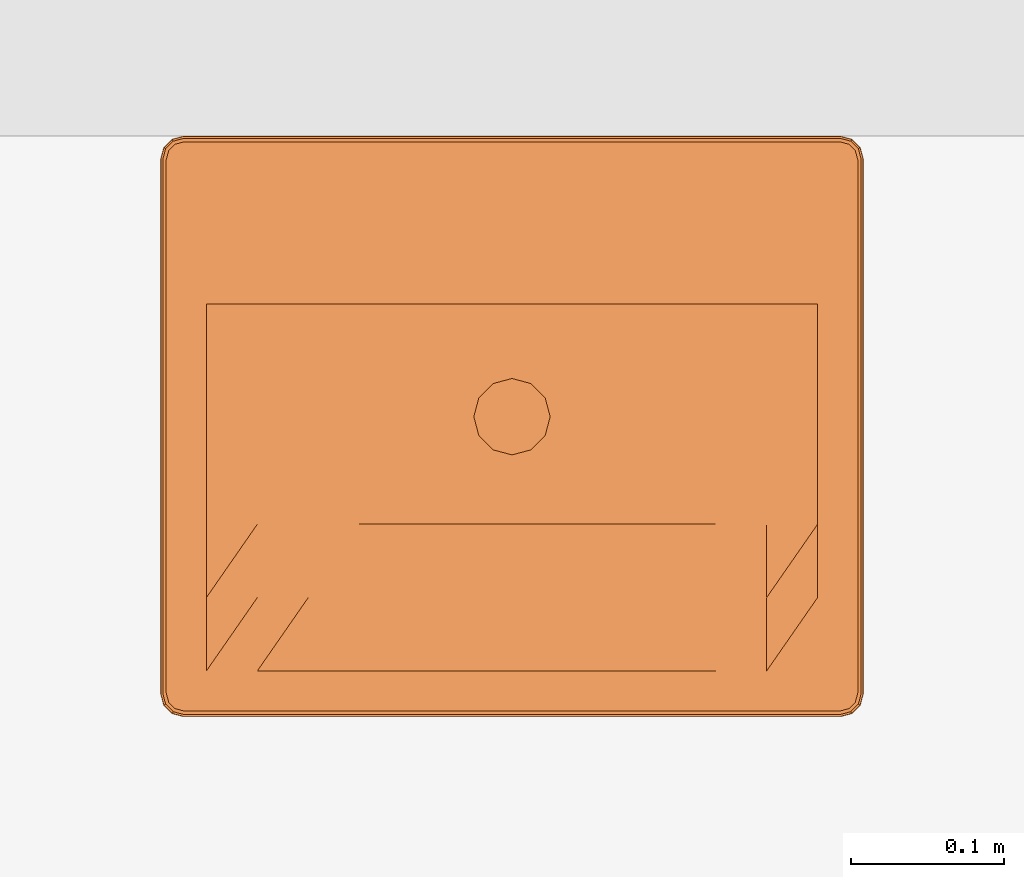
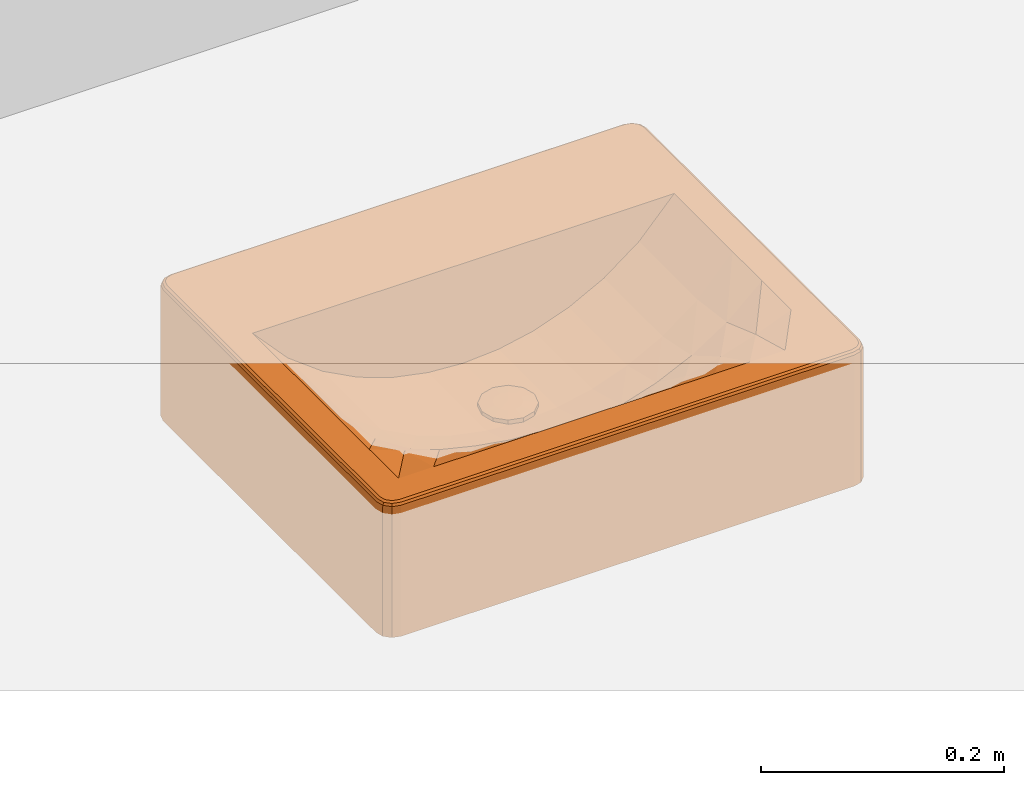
# One storey, part 51 of 51: 1 proxy.
"""IFC2X3 building model written with IfcOpenShell, lengths in metres."""

from ifc_helpers import new_model, entity, si_unit, converted_unit, derived_unit, direction, frame, origin, place, context, subcontext, project, spatial, faceted_brep, source, transform, mapped, material, type_object, type_shapes, element, save


model = new_model("IFC2X3")

# Units and contexts
model_context = context("Model", 3, precision=1e-05, world=origin(), true_north=direction((6.123031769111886e-17, 1.0)))
body_context = subcontext(model_context, "Body", "Model", "MODEL_VIEW")
ifc_project = project(units=[si_unit("LENGTHUNIT", "METRE"), si_unit("AREAUNIT", "SQUARE_METRE"), si_unit("VOLUMEUNIT", "CUBIC_METRE"), converted_unit("PLANEANGLEUNIT", "DEGREE", entity("IfcRatioMeasure", 0.017453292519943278), si_unit("PLANEANGLEUNIT", "RADIAN"), dimensions=[0, 0, 0, 0, 0, 0, 0]), si_unit("MASSUNIT", "GRAM", prefix="KILO"), derived_unit("MASSDENSITYUNIT", [(si_unit("MASSUNIT", "GRAM", prefix="KILO"), 1), (si_unit("LENGTHUNIT", "METRE"), -3)]), derived_unit("MOMENTOFINERTIAUNIT", [(si_unit("LENGTHUNIT", "METRE"), 4)]), si_unit("TIMEUNIT", "SECOND"), si_unit("FREQUENCYUNIT", "HERTZ"), si_unit("THERMODYNAMICTEMPERATUREUNIT", "DEGREE_CELSIUS"), derived_unit("THERMALTRANSMITTANCEUNIT", [(si_unit("MASSUNIT", "GRAM", prefix="KILO"), 1), (si_unit("THERMODYNAMICTEMPERATUREUNIT", "KELVIN"), -1), (si_unit("TIMEUNIT", "SECOND"), -3)]), derived_unit("THERMALCONDUCTANCEUNIT", [(si_unit("MASSUNIT", "GRAM", prefix="KILO"), 1), (si_unit("LENGTHUNIT", "METRE"), 1), (si_unit("THERMODYNAMICTEMPERATUREUNIT", "KELVIN"), -1), (si_unit("TIMEUNIT", "SECOND"), -3)]), derived_unit("VOLUMETRICFLOWRATEUNIT", [(si_unit("LENGTHUNIT", "METRE"), 3), (si_unit("TIMEUNIT", "SECOND"), -1)]), derived_unit("MASSFLOWRATEUNIT", [(si_unit("MASSUNIT", "GRAM", prefix="KILO"), 1), (si_unit("TIMEUNIT", "SECOND"), -1)]), derived_unit("ROTATIONALFREQUENCYUNIT", [(si_unit("TIMEUNIT", "SECOND"), -1)]), si_unit("ELECTRICCURRENTUNIT", "AMPERE"), si_unit("ELECTRICVOLTAGEUNIT", "VOLT"), si_unit("POWERUNIT", "WATT"), si_unit("FORCEUNIT", "NEWTON", prefix="KILO"), si_unit("ILLUMINANCEUNIT", "LUX"), si_unit("LUMINOUSFLUXUNIT", "LUMEN"), si_unit("LUMINOUSINTENSITYUNIT", "CANDELA"), derived_unit("USERDEFINED", [(si_unit("MASSUNIT", "GRAM", prefix="KILO"), -1), (si_unit("LENGTHUNIT", "METRE"), -2), (si_unit("TIMEUNIT", "SECOND"), 3), (si_unit("LUMINOUSFLUXUNIT", "LUMEN"), 1)]), derived_unit("USERDEFINED", [(si_unit("MASSUNIT", "GRAM", prefix="KILO"), 1), (si_unit("LENGTHUNIT", "METRE"), 3), (si_unit("TIMEUNIT", "SECOND"), -3), (si_unit("ELECTRICCURRENTUNIT", "AMPERE"), -2)]), derived_unit("USERDEFINED", [(si_unit("LENGTHUNIT", "METRE"), 2), (si_unit("TIMEUNIT", "SECOND"), -2)]), derived_unit("SOUNDPOWERUNIT", [(si_unit("MASSUNIT", "GRAM", prefix="KILO"), 1), (si_unit("LENGTHUNIT", "METRE"), 2), (si_unit("TIMEUNIT", "SECOND"), -3)]), derived_unit("SOUNDPRESSUREUNIT", [(si_unit("MASSUNIT", "GRAM", prefix="KILO"), 1), (si_unit("LENGTHUNIT", "METRE"), -1), (si_unit("TIMEUNIT", "SECOND"), -2)]), derived_unit("LINEARVELOCITYUNIT", [(si_unit("LENGTHUNIT", "METRE"), 1), (si_unit("TIMEUNIT", "SECOND"), -1)]), si_unit("PRESSUREUNIT", "PASCAL"), derived_unit("USERDEFINED", [(si_unit("LENGTHUNIT", "METRE"), -2), (si_unit("MASSUNIT", "GRAM", prefix="KILO"), 1), (si_unit("TIMEUNIT", "SECOND"), -2)]), derived_unit("LINEARFORCEUNIT", [(si_unit("MASSUNIT", "GRAM", prefix="KILO"), 1), (si_unit("LENGTHUNIT", "METRE"), 1), (si_unit("TIMEUNIT", "SECOND"), -2), (si_unit("LENGTHUNIT", "METRE"), -1)]), derived_unit("PLANARFORCEUNIT", [(si_unit("MASSUNIT", "GRAM", prefix="KILO"), 1), (si_unit("LENGTHUNIT", "METRE"), 1), (si_unit("TIMEUNIT", "SECOND"), -2), (si_unit("LENGTHUNIT", "METRE"), -2)]), derived_unit("SPECIFICHEATCAPACITYUNIT", [(si_unit("LENGTHUNIT", "METRE"), 2), (si_unit("TIMEUNIT", "SECOND"), -2), (si_unit("THERMODYNAMICTEMPERATUREUNIT", "KELVIN"), -1)]), derived_unit("VAPORPERMEABILITYUNIT", [(si_unit("TIMEUNIT", "SECOND"), 1), (si_unit("LENGTHUNIT", "METRE"), -1)]), derived_unit("DYNAMICVISCOSITYUNIT", [(si_unit("MASSUNIT", "GRAM", prefix="KILO"), 1), (si_unit("LENGTHUNIT", "METRE"), -1), (si_unit("TIMEUNIT", "SECOND"), -1)]), derived_unit("THERMALEXPANSIONCOEFFICIENTUNIT", [(si_unit("THERMODYNAMICTEMPERATUREUNIT", "KELVIN"), -1)])], contexts=[model_context])

# Site, building, storey
site_placement = place(None, origin())
site = spatial("IfcSite", under=ifc_project, at=site_placement, Name="Default", CompositionType="ELEMENT")
building_placement = place(site_placement, origin())
building = spatial("IfcBuilding", under=site, at=building_placement, CompositionType="ELEMENT")
storey_placement = place(building_placement, frame((0.0, 0.0, 3.06)))
storey = spatial("IfcBuildingStorey", under=building, at=storey_placement, Name="ÉTAGE", CompositionType="ELEMENT", Elevation=3.06)

# Proxy
ifc_material = material(Name="Déco - Céramique / Porcelaine")
building_element_proxy_type = type_object("IfcBuildingElementProxyType", Name="Symb-0001", PredefinedType="NOTDEFINED", material=ifc_material)
shared_shape = source(origin(), body_context, "Body", "Brep", [
    faceted_brep([(0.44500000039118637, 0.0, 0.0), (0.015000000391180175, 0.0, 0.0), (0.007500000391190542, 0.002009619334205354, 0.0), (0.002009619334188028, 0.007500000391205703, 0.0), (0.0, 0.015000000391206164, 0.0), (0.0, 0.36500000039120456, 0.0), (0.002009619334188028, 0.37250000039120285, 0.0), (0.007500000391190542, 0.37799038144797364, 0.0), (0.015000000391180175, 0.3800000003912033, 0.0), (0.44500000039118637, 0.3800000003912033, 0.0), (0.452500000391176, 0.37799038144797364, 0.0), (0.45799038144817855, 0.37250000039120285, 0.0), (0.4600000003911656, 0.36500000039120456, 0.0), (0.4600000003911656, 0.015000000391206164, 0.0), (0.45799038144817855, 0.007500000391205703, 0.0), (0.452500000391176, 0.002009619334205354, 0.0), (0.03000000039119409, 0.030000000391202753, 0.0), (0.4300000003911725, 0.030000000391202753, 0.0), (0.4300000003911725, 0.27000000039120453, 0.0), (0.03000000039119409, 0.27000000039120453, 0.0), (0.44500000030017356, 0.0, 0.13000000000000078), (0.015000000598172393, 0.0, 0.13000000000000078), (0.007500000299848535, 0.002009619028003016, 0.13000000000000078), (0.002009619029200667, 0.007500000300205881, 0.13000000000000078), (0.002009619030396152, 0.007500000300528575, 0.13000000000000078), (0.0, 0.015000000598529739, 0.13000000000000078), (0.0, 0.3650000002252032, 0.13000000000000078), (0.0020096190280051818, 0.3725000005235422, 0.13000000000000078), (0.007500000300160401, 0.37799038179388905, 0.13000000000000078), (0.01500000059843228, 0.3800000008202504, 0.13000000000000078), (0.44500000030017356, 0.3800000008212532, 0.13000000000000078), (0.4525000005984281, 0.37799038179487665, 0.13000000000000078), (0.4579903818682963, 0.37250000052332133, 0.13000000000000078), (0.46000000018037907, 0.3650000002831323, 0.13000000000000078), (0.45999999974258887, 0.3650000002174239, 0.0), (0.4599999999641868, 0.3650000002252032, 0.13000000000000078), (0.4599999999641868, 0.01500000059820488, 0.13000000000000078), (0.4579903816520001, 0.007500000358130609, 0.13000000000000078), (0.457990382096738, 0.007500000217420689, 0.0), (0.45799038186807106, 0.0075000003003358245, 0.13000000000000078), (0.45250000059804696, 0.002009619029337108, 0.13000000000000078), (0.452500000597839, 0.002009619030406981, 0.13000000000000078), (0.03000000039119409, 0.030000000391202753, 0.1349999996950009), (0.4300000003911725, 0.030000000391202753, 0.1349999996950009), (0.4300000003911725, 0.27000000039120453, 0.1349999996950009), (0.03000000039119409, 0.27000000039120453, 0.1349999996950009), (0.44497757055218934, 0.00017037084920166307, 0.13129409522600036), (0.015022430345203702, 0.00017037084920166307, 0.13129409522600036), (0.007588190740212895, 0.002162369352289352, 0.131294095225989), (0.0021623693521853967, 0.007588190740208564, 0.13129409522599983), (0.00017037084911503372, 0.015022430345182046, 0.1312940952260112), (0.00017037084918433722, 0.36497757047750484, 0.13129409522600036), (0.0021623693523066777, 0.37241181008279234, 0.13129409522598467), (0.007588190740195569, 0.37783763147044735, 0.13129409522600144), (0.015022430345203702, 0.37982962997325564, 0.13129409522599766), (0.44497757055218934, 0.37982962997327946, 0.1312940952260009), (0.4524118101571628, 0.3778376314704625, 0.13129409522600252), (0.4578376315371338, 0.37241181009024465, 0.13129409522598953), (0.45982962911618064, 0.3649775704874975, 0.13129409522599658), (0.45982962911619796, 0.015022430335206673, 0.13129409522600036), (0.45783763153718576, 0.0075881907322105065, 0.13129409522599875), (0.4524118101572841, 0.002162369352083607, 0.13129409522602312), (0.015658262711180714, 0.375000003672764, 0.1349999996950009), (0.010088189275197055, 0.3735075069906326, 0.1349999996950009), (0.0064924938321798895, 0.3699118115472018, 0.1349999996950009), (0.004999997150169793, 0.36434173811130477, 0.1349999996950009), (0.004999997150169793, 0.01565826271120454, 0.1349999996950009), (0.0064924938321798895, 0.010088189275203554, 0.1349999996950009), (0.010088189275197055, 0.006492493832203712, 0.1349999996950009), (0.015658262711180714, 0.00499999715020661, 0.1349999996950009), (0.44434173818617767, 0.00499999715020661, 0.1349999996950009), (0.44991181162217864, 0.006492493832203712, 0.1349999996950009), (0.45350750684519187, 0.010088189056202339, 0.1349999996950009), (0.45500000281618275, 0.01565826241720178, 0.1349999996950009), (0.45500000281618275, 0.3643417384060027, 0.1349999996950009), (0.45350750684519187, 0.36991181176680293, 0.1349999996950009), (0.44991181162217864, 0.3735075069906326, 0.1349999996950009), (0.44434173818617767, 0.375000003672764, 0.1349999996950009), (0.4448071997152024, 0.0014644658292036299, 0.13353553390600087), (0.015192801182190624, 0.0014644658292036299, 0.13353553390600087), (0.008258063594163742, 0.0033226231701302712, 0.1335355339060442), (0.00332262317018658, 0.008258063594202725, 0.13353553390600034), (0.00146446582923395, 0.01519280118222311, 0.13353553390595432), (0.0014644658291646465, 0.3648071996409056, 0.13353553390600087), (0.003322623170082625, 0.3717419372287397, 0.13353553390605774), (0.008258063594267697, 0.37667737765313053, 0.133535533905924), (0.015192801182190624, 0.3785355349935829, 0.13353553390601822), (0.4448071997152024, 0.37853553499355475, 0.13353553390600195), (0.4517419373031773, 0.37667737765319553, 0.13353553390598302), (0.45667737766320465, 0.3717419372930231, 0.13353553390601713), (0.4585355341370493, 0.36480719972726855, 0.133535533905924), (0.4585355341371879, 0.015192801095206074, 0.13353553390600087), (0.4566773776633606, 0.00825806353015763, 0.13353553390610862), (0.4517419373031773, 0.003322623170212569, 0.13353553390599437), (0.009418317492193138, 0.3746677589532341, 0.13482962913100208), (0.015487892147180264, 0.3762940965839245, 0.13482962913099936), (0.005332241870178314, 0.3705816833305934, 0.13482962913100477), (0.0037059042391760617, 0.3645121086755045, 0.13482962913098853), (0.0037059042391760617, 0.015487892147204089, 0.134829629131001), (0.005332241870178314, 0.009418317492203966, 0.1348296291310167), (0.009418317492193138, 0.005332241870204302, 0.13482962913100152), (0.015487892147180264, 0.003705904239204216, 0.13482962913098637), (0.4445121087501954, 0.0037059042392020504, 0.134829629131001), (0.45058168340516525, 0.005332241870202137, 0.13482962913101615), (0.4546677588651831, 0.00941831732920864, 0.13482962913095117), (0.4562940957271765, 0.015487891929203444, 0.1348296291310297), (0.4562940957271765, 0.3645121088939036, 0.134829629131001), (0.4546677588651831, 0.37058168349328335, 0.13482962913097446), (0.45058168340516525, 0.3746677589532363, 0.1348296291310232), (0.4445121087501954, 0.3762940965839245, 0.13482962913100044), (0.24250000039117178, 0.1747203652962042, 0.0), (0.25165063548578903, 0.18387100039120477, 0.0), (0.2550000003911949, 0.1963710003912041, 0.0), (0.25165063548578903, 0.2088710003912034, 0.0), (0.24250000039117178, 0.21802163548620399, 0.0), (0.2300000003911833, 0.22137100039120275, 0.0), (0.21750000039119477, 0.21802163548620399, 0.0), (0.20834936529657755, 0.2088710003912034, 0.0), (0.20500000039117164, 0.1963710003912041, 0.0), (0.20834936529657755, 0.18387100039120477, 0.0), (0.21750000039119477, 0.1747203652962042, 0.0), (0.2300000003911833, 0.17137100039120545, 0.0), (0.030000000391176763, 0.1260000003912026, 0.13500000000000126), (0.030000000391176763, 0.17400000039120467, 0.13500000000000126), (0.030000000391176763, 0.22200000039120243, 0.13500000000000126), (0.030000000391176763, 0.27000000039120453, 0.13500000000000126), (0.030000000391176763, 0.030000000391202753, 0.13500000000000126), (0.030000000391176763, 0.07800000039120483, 0.13500000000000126), (0.3300000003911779, 0.270000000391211, 0.05587121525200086), (0.36333333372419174, 0.270000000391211, 0.07352370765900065), (0.3966666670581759, 0.270000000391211, 0.09866100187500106), (0.4300000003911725, 0.270000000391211, 0.1350000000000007), (0.06333333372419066, 0.270000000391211, 0.09866100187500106), (0.0966666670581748, 0.270000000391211, 0.07352370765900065), (0.1300000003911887, 0.270000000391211, 0.05587121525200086), (0.16333333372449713, 0.270000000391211, 0.04405279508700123), (0.19666666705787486, 0.270000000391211, 0.037232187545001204), (0.2300000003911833, 0.270000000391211, 0.035000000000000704), (0.2633333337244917, 0.270000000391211, 0.037232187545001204), (0.2966666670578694, 0.270000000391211, 0.04405279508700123), (0.4300000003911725, 0.17400000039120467, 0.13500000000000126), (0.4300000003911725, 0.1260000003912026, 0.13500000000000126), (0.4300000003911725, 0.07800000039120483, 0.13500000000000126), (0.4300000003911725, 0.030000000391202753, 0.13500000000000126), (0.4300000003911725, 0.22200000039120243, 0.13500000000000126), (0.1300000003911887, 0.030000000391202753, 0.13500000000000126), (0.0966666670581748, 0.030000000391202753, 0.13500000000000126), (0.06333333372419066, 0.030000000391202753, 0.13500000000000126), (0.3966666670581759, 0.030000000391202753, 0.13500000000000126), (0.36333333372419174, 0.030000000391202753, 0.13500000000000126), (0.3300000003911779, 0.030000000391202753, 0.13500000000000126), (0.2966666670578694, 0.030000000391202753, 0.13500000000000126), (0.2633333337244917, 0.030000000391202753, 0.13500000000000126), (0.2300000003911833, 0.030000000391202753, 0.13500000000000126), (0.19666666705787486, 0.030000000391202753, 0.13500000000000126), (0.16333333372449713, 0.030000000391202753, 0.13500000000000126), (0.24250000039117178, 0.1747203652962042, 0.03583707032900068), (0.25165063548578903, 0.18387100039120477, 0.03644984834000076), (0.2550000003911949, 0.19637100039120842, 0.03667414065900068), (0.25165063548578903, 0.20887100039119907, 0.03644984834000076), (0.24250000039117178, 0.21802163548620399, 0.03583707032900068), (0.2300000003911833, 0.22137100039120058, 0.035000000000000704), (0.21750000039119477, 0.21802163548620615, 0.03583707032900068), (0.20834936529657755, 0.2088710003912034, 0.03644984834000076), (0.20500000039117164, 0.19637100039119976, 0.03667414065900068), (0.20834936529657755, 0.18387100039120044, 0.03644984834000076), (0.21750000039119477, 0.1747203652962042, 0.03583707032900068), (0.2284607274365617, 0.1717834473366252, 0.03572839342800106), (0.23000000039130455, 0.1713710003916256, 0.035752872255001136), (0.22018843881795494, 0.17400000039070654, 0.03565703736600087), (0.2398115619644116, 0.17400000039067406, 0.03565703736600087), (0.06333333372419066, 0.17400000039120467, 0.09866100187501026), (0.06333333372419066, 0.22200000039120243, 0.09866100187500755), (0.06333333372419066, 0.07800000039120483, 0.12185304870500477), (0.06333333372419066, 0.1260000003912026, 0.10500578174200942), (0.36333333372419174, 0.22200000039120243, 0.07352370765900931), (0.3300000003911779, 0.22200000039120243, 0.055871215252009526), (0.3966666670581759, 0.22200000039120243, 0.09866100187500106), (0.0966666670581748, 0.22200000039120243, 0.07352370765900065), (0.1300000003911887, 0.22200000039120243, 0.05587121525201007), (0.16333333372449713, 0.22200000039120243, 0.04405279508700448), (0.19666666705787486, 0.22200000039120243, 0.03723218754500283), (0.2300000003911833, 0.22200000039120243, 0.035000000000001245), (0.2633333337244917, 0.22200000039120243, 0.037232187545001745), (0.2966666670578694, 0.22200000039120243, 0.04405279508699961), (0.3966666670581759, 0.1260000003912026, 0.10500578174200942), (0.3966666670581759, 0.07800000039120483, 0.12185304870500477), (0.3966666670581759, 0.17400000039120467, 0.09866100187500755), (0.1300000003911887, 0.07800000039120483, 0.1033596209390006), (0.0966666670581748, 0.07800000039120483, 0.11136315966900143), (0.36333333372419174, 0.07800000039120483, 0.11136315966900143), (0.3300000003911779, 0.07800000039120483, 0.1033596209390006), (0.2966666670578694, 0.07800000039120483, 0.09772194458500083), (0.2633333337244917, 0.07800000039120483, 0.09436991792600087), (0.2300000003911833, 0.07800000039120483, 0.09325756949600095), (0.19666666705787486, 0.07800000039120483, 0.09436991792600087), (0.16333333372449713, 0.07800000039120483, 0.09772194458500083), (0.2633333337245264, 0.17400000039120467, 0.03723218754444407), (0.1966666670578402, 0.17400000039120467, 0.03723218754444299), (0.1966666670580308, 0.12600000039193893, 0.05077353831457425), (0.23000000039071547, 0.12600000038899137, 0.04874586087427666), (0.0966666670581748, 0.17400000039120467, 0.07352370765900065), (0.36333333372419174, 0.17400000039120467, 0.07352370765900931), (0.3300000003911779, 0.17400000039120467, 0.055871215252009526), (0.1300000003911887, 0.17400000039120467, 0.05587121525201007), (0.16333333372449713, 0.17400000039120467, 0.04405279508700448), (0.2966666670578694, 0.17400000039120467, 0.04405279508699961), (0.16333333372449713, 0.1260000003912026, 0.05694901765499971), (0.2633333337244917, 0.1260000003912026, 0.050773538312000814), (0.0966666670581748, 0.12600000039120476, 0.0832313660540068), (0.3300000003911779, 0.12600000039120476, 0.06757209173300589), (0.36333333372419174, 0.1260000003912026, 0.08323136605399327), (0.1300000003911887, 0.1260000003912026, 0.06757209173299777), (0.2966666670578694, 0.1260000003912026, 0.0569490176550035), (0.25165063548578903, 0.18387100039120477, 0.035000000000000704), (0.24250000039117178, 0.1747203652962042, 0.035000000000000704), (0.2300000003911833, 0.17137100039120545, 0.035000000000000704), (0.21750000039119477, 0.1747203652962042, 0.035000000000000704), (0.20834936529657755, 0.18387100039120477, 0.035000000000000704), (0.20500000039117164, 0.1963710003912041, 0.035000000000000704), (0.20834936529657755, 0.2088710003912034, 0.035000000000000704), (0.21750000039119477, 0.21802163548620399, 0.035000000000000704), (0.24250000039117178, 0.21802163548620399, 0.035000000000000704), (0.25165063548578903, 0.2088710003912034, 0.035000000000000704), (0.2550000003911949, 0.1963710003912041, 0.035000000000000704), (0.25165063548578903, 0.18387100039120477, 0.04000000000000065), (0.24250000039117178, 0.1747203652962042, 0.04000000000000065), (0.2300000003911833, 0.17137100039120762, 0.04000000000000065), (0.21750000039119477, 0.17472036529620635, 0.04000000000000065), (0.20834936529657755, 0.18387100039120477, 0.04000000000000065), (0.20500000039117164, 0.19637100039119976, 0.04000000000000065), (0.20834936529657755, 0.20887100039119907, 0.04000000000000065), (0.21750000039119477, 0.21802163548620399, 0.04000000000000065), (0.2300000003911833, 0.22137100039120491, 0.04000000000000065), (0.24250000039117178, 0.21802163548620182, 0.04000000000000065), (0.25165063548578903, 0.2088710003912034, 0.04000000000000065), (0.2550000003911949, 0.19637100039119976, 0.04000000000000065), (0.2300000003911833, 0.1963710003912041, 0.0420000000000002), (0.2300000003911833, 0.20899290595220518, 0.04149757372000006), (0.22368904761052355, 0.20730189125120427, 0.04149757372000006), (0.236310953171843, 0.20730189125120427, 0.04149757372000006), (0.21906910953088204, 0.20268195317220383, 0.041497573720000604), (0.2409308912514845, 0.20268195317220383, 0.04149757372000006), (0.21737809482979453, 0.1963710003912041, 0.041497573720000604), (0.24262190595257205, 0.1963710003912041, 0.04149757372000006), (0.21906910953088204, 0.19006004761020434, 0.041497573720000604), (0.2409308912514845, 0.19006004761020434, 0.04149757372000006), (0.22368904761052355, 0.18544010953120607, 0.04149757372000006), (0.236310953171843, 0.18544010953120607, 0.04149757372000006), (0.2300000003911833, 0.183749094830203, 0.041497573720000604)], [[[0, 1, 2, 3, 4, 5, 6, 7, 8, 9, 10, 11, 12, 13, 14, 15], [16, 17, 18, 19]], [[0, 20, 21, 1]], [[1, 21, 22, 2]], [[2, 22, 23, 3]], [[3, 24, 25, 4]], [[4, 25, 26, 5]], [[5, 26, 27, 6]], [[6, 27, 28, 7]], [[7, 28, 29, 8]], [[8, 29, 30, 9]], [[9, 30, 31, 10]], [[10, 31, 32, 11]], [[11, 32, 33, 34]], [[12, 35, 36, 13]], [[13, 36, 37, 38]], [[14, 39, 40, 15]], [[15, 41, 20, 0]], [[42, 43, 17, 16]], [[43, 44, 18, 17]], [[44, 45, 19, 18]], [[45, 42, 16, 19]], [[20, 46, 47, 21]], [[21, 47, 48, 22]], [[22, 48, 49, 23]], [[23, 49, 50, 25]], [[25, 50, 51, 26]], [[26, 51, 52, 27]], [[27, 52, 53, 28]], [[28, 53, 54, 29]], [[29, 54, 55, 30]], [[30, 55, 56, 31]], [[31, 56, 57, 32]], [[32, 57, 58, 35]], [[35, 58, 59, 36]], [[36, 59, 60, 39]], [[39, 60, 61, 41]], [[40, 61, 46, 20]], [[62, 63, 64, 65, 66, 67, 68, 69, 70, 71, 72, 73, 74, 75, 76, 77], [42, 45, 44, 43]], [[46, 78, 79, 47]], [[47, 79, 80, 48]], [[48, 80, 81, 49]], [[49, 81, 82, 50]], [[50, 82, 83, 51]], [[51, 83, 84, 52]], [[52, 84, 85, 53]], [[53, 85, 86, 54]], [[54, 86, 87, 55]], [[55, 87, 88, 56]], [[56, 88, 89, 57]], [[57, 89, 90, 58]], [[58, 90, 91, 59]], [[59, 91, 92, 60]], [[60, 92, 93, 61]], [[61, 93, 78, 46]], [[94, 63, 62, 95]], [[96, 64, 63, 94]], [[97, 65, 64, 96]], [[98, 66, 65, 97]], [[99, 67, 66, 98]], [[100, 68, 67, 99]], [[101, 69, 68, 100]], [[102, 70, 69, 101]], [[103, 71, 70, 102]], [[104, 72, 71, 103]], [[105, 73, 72, 104]], [[106, 74, 73, 105]], [[107, 75, 74, 106]], [[108, 76, 75, 107]], [[109, 77, 76, 108]], [[95, 62, 77, 109]], [[78, 102, 101, 79]], [[79, 101, 100, 80]], [[80, 100, 99, 81]], [[81, 99, 98, 82]], [[82, 98, 97, 83]], [[83, 97, 96, 84]], [[84, 96, 94, 85]], [[85, 94, 95, 86]], [[86, 95, 109, 87]], [[87, 109, 108, 88]], [[88, 108, 107, 89]], [[89, 107, 106, 90]], [[90, 106, 105, 91]], [[91, 105, 104, 92]], [[92, 104, 103, 93]], [[93, 103, 102, 78]], [[16, 19, 18, 17], [110, 111, 112, 113, 114, 115, 116, 117, 118, 119, 120, 121]], [[122, 123, 124, 125, 19, 16, 126, 127]], [[128, 129, 130, 131, 18, 19, 125, 132, 133, 134, 135, 136, 137, 138, 139]], [[140, 141, 142, 143, 17, 18, 131, 144]], [[145, 146, 147, 126, 16, 17, 143, 148, 149, 150, 151, 152, 153, 154, 155]], [[156, 157, 111, 110]], [[157, 158, 112, 111]], [[158, 159, 113, 112]], [[159, 160, 114, 113]], [[160, 161, 115, 114]], [[161, 162, 116, 115]], [[162, 163, 117, 116]], [[163, 164, 118, 117]], [[164, 165, 119, 118]], [[165, 166, 120, 119]], [[167, 168, 121, 120, 166, 169]], [[170, 156, 110, 121, 168]], [[122, 171, 123]], [[171, 172, 124, 123]], [[172, 132, 125, 124]], [[126, 173, 127]], [[127, 174, 122]], [[175, 129, 128, 176]], [[177, 130, 129, 175]], [[144, 131, 130, 177]], [[178, 133, 132, 172]], [[179, 134, 133, 178]], [[180, 135, 134, 179]], [[181, 136, 135, 180]], [[182, 137, 136, 181]], [[183, 138, 137, 182]], [[184, 139, 138, 183]], [[176, 128, 139, 184]], [[185, 141, 140]], [[186, 142, 141]], [[148, 143, 142]], [[140, 144, 177, 187]], [[146, 145, 188]], [[147, 146, 189]], [[126, 147, 173]], [[149, 148, 186]], [[150, 149, 190]], [[151, 150, 191]], [[152, 151, 192]], [[153, 152, 193]], [[154, 153, 194]], [[155, 154, 195]], [[145, 155, 196]], [[160, 161, 182, 183, 197, 170, 156, 157, 158, 159]], [[162, 161, 182, 181, 198, 169, 166, 165, 164, 163]], [[168, 167, 199, 200]], [[167, 169, 198, 199]], [[170, 168, 200, 197]], [[122, 174, 171]], [[201, 178, 172, 171]], [[127, 173, 174]], [[202, 175, 176, 203]], [[187, 177, 175, 202]], [[204, 179, 178, 201]], [[205, 180, 179, 204]], [[198, 181, 180, 205]], [[206, 184, 183, 197]], [[203, 176, 184, 206]], [[186, 141, 185]], [[185, 140, 187]], [[148, 142, 186]], [[145, 196, 188]], [[146, 188, 189]], [[147, 189, 173]], [[149, 186, 190]], [[150, 190, 191]], [[151, 191, 192]], [[152, 192, 193]], [[153, 193, 194]], [[154, 194, 195]], [[155, 195, 196]], [[195, 200, 199]], [[207, 199, 198]], [[200, 208, 197]], [[174, 201, 171]], [[173, 209, 174]], [[210, 202, 203]], [[211, 187, 202]], [[209, 204, 201]], [[212, 205, 204]], [[207, 198, 205]], [[208, 206, 197]], [[213, 203, 206]], [[190, 186, 185]], [[211, 185, 187]], [[188, 196, 207]], [[189, 188, 212]], [[173, 189, 209]], [[191, 190, 211]], [[192, 191, 210]], [[193, 192, 213]], [[194, 193, 208]], [[195, 194, 200]], [[196, 195, 199]], [[196, 199, 207]], [[194, 208, 200]], [[174, 209, 201]], [[210, 211, 202]], [[213, 210, 203]], [[209, 212, 204]], [[212, 207, 205]], [[208, 213, 206]], [[190, 185, 211]], [[188, 207, 212]], [[189, 212, 209]], [[191, 211, 210]], [[192, 210, 213]], [[193, 213, 208]], [[214, 215, 216, 217, 218, 219, 220, 221, 161, 222, 223, 224]], [[215, 214, 225, 226]], [[216, 215, 226, 227]], [[217, 216, 227, 228]], [[218, 217, 228, 229]], [[219, 218, 229, 230]], [[220, 219, 230, 231]], [[221, 220, 231, 232]], [[161, 221, 232, 233]], [[222, 161, 233, 234]], [[223, 222, 234, 235]], [[224, 223, 235, 236]], [[214, 224, 236, 225]], [[225, 236, 235, 234, 233, 232, 231, 230, 229, 228, 227, 226]], [[237, 238, 239]], [[237, 240, 238]], [[239, 238, 233, 232]], [[237, 239, 241]], [[237, 242, 240]], [[238, 240, 234, 233]], [[241, 239, 232, 231]], [[237, 241, 243]], [[237, 244, 242]], [[240, 242, 235, 234]], [[243, 241, 231, 230]], [[237, 243, 245]], [[237, 246, 244]], [[242, 244, 236, 235]], [[245, 243, 230, 229]], [[237, 245, 247]], [[237, 248, 246]], [[244, 246, 225, 236]], [[247, 245, 229, 228]], [[237, 247, 249]], [[237, 249, 248]], [[246, 248, 226, 225]], [[249, 247, 228, 227]], [[248, 249, 227, 226]]]),
])
type_shapes(building_element_proxy_type, [shared_shape])
proxy_placement = place(storey_placement, frame((150.96075203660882, 17.797209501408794, 0.8649999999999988)))
element("IfcBuildingElementProxy", 1, at=proxy_placement, inside=storey, type_object=building_element_proxy_type, material=ifc_material, Name="Symb-0001 267370:Symb-0001 267370", ObjectType="Symb-0001 267370:Symb-0001 267370", context=body_context, shape_type="MappedRepresentation", body=[
    mapped(shared_shape, transform((0.0, 0.0, 0.0), scale=1.0)),
])

save(model, "model.ifc")
